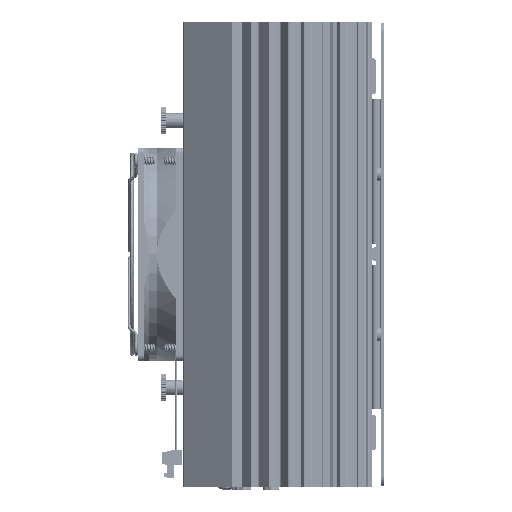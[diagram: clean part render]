
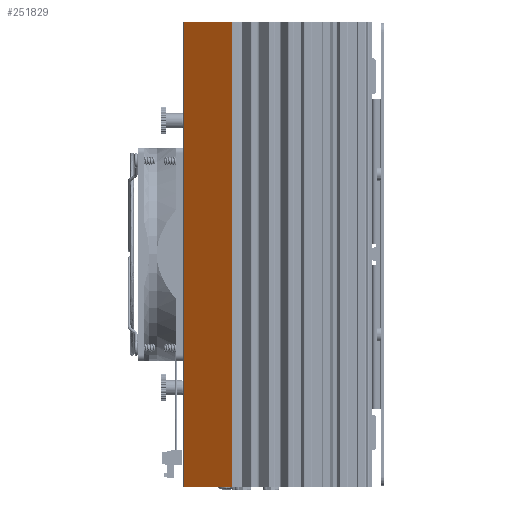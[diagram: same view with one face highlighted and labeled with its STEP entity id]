
A CAD part, left-side view. The second image highlights one B-rep face of the part: STEP entity #251829.
In plain terms, the highlighted planar face has unit normal (-0.819, 0.574, 0).
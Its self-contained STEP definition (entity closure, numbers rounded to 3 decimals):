
#53503 = CARTESIAN_POINT ( 'NONE',  ( -94.42, 19.571, 130.5 ) ) ;
#59853 = LINE ( 'NONE', #492625, #659937 ) ;
#74645 = CARTESIAN_POINT ( 'NONE',  ( -94.42, 19.571, 130.5 ) ) ;
#81846 = PLANE ( 'NONE',  #749321 ) ;
#90961 = DIRECTION ( 'NONE',  ( -0.574, -0.819, 0. ) ) ;
#102978 = LINE ( 'NONE', #520175, #394016 ) ;
#124447 = DIRECTION ( 'NONE',  ( -0.574, -0.819, 0. ) ) ;
#201915 = EDGE_CURVE ( 'NONE', #211350, #506822, #59853, .T. ) ;
#206967 = VERTEX_POINT ( 'NONE', #213462 ) ;
#211350 = VERTEX_POINT ( 'NONE', #74645 ) ;
#213462 = CARTESIAN_POINT ( 'NONE',  ( -113.398, -7.532, -130.5 ) ) ;
#251829 = ADVANCED_FACE ( 'NONE', ( #419868 ), #81846, .F. ) ;
#265571 = EDGE_CURVE ( 'NONE', #211350, #698131, #501602, .T. ) ;
#266505 = EDGE_CURVE ( 'NONE', #698131, #206967, #525737, .T. ) ;
#290760 = EDGE_LOOP ( 'NONE', ( #720043, #545080, #578624, #473971 ) ) ;
#383555 = VECTOR ( 'NONE', #518540, 1000. ) ;
#394016 = VECTOR ( 'NONE', #636948, 1000. ) ;
#411595 = CARTESIAN_POINT ( 'NONE',  ( -94.26, 19.8, -130.5 ) ) ;
#419868 = FACE_OUTER_BOUND ( 'NONE', #290760, .T. ) ;
#437502 = DIRECTION ( 'NONE',  ( 0.819, -0.574, 0. ) ) ;
#440765 = CARTESIAN_POINT ( 'NONE',  ( -113.398, -7.532, 130.5 ) ) ;
#473971 = ORIENTED_EDGE ( 'NONE', *, *, #265571, .T. ) ;
#492625 = CARTESIAN_POINT ( 'NONE',  ( -94.26, 19.8, 130.5 ) ) ;
#501602 = LINE ( 'NONE', #53503, #383555 ) ;
#506822 = VERTEX_POINT ( 'NONE', #440765 ) ;
#518540 = DIRECTION ( 'NONE',  ( 0., 0., -1. ) ) ;
#520175 = CARTESIAN_POINT ( 'NONE',  ( -113.398, -7.532, 130.5 ) ) ;
#525737 = LINE ( 'NONE', #411595, #662131 ) ;
#545080 = ORIENTED_EDGE ( 'NONE', *, *, #632222, .T. ) ;
#546331 = CARTESIAN_POINT ( 'NONE',  ( -94.42, 19.571, -130.5 ) ) ;
#546978 = CARTESIAN_POINT ( 'NONE',  ( -94.26, 19.8, 130.5 ) ) ;
#578624 = ORIENTED_EDGE ( 'NONE', *, *, #201915, .F. ) ;
#615441 = DIRECTION ( 'NONE',  ( 0.574, 0.819, 0. ) ) ;
#632222 = EDGE_CURVE ( 'NONE', #206967, #506822, #102978, .T. ) ;
#636948 = DIRECTION ( 'NONE',  ( 0., 0., 1. ) ) ;
#659937 = VECTOR ( 'NONE', #90961, 1000. ) ;
#662131 = VECTOR ( 'NONE', #124447, 1000. ) ;
#698131 = VERTEX_POINT ( 'NONE', #546331 ) ;
#720043 = ORIENTED_EDGE ( 'NONE', *, *, #266505, .T. ) ;
#749321 = AXIS2_PLACEMENT_3D ( 'NONE', #546978, #437502, #615441 ) ;
